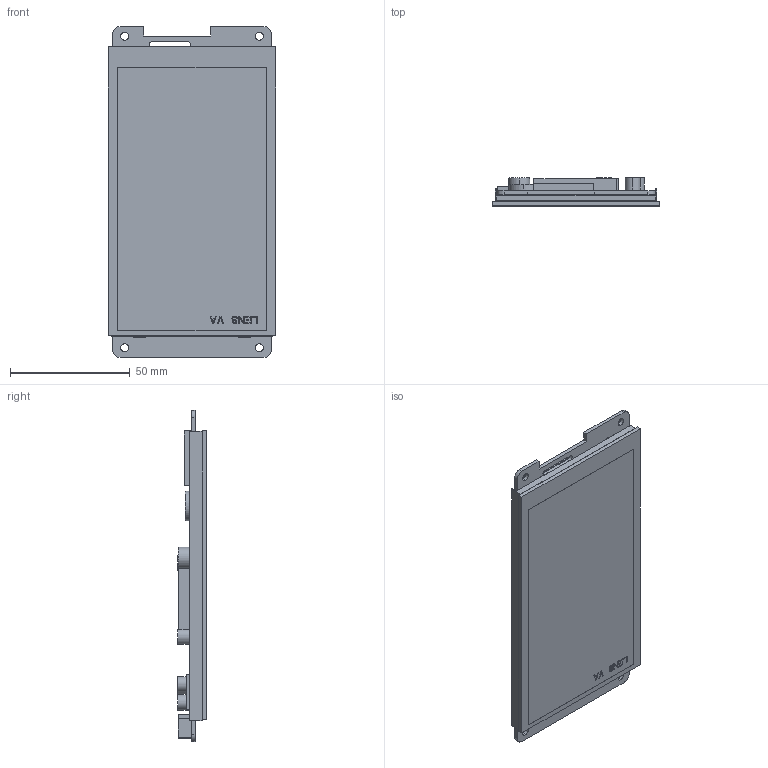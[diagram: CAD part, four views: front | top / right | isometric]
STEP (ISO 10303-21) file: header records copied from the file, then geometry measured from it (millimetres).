
FILE_DESCRIPTION((''),'2;1');
FILE_NAME('DMG85480K050-03WTC_ASM','2022-02-21T',('Administrator'),(''),'PRO/ENGINEER BY PARAMETRIC TECHNOLOGY CORPORATION, 2014320','PRO/ENGINEER BY PARAMETRIC TECHNOLOGY CORPORATION, 2014320','');
FILE_SCHEMA(('CONFIG_CONTROL_DESIGN','SHAPE_APPEARANCE_LAYERS_GROUPS'));
Length unit declared in the file: millimetre
Products named in the file (5): TK050005; LI85480T050HD4504; PCB; TPC050C0024G01V1; DMG85480K050-03WTC_ASM
Assembly tree (4 placements, depth 2):
  DMG85480K050-03WTC_ASM
    TK050005
    LI85480T050HD4504
    PCB
    TPC050C0024G01V1
Bounding box: 69.9 x 11.97 x 138.3 mm (x, y, z)
Volume: 55657 mm3; surface area: 61393.5 mm2
Topology: 4 solids, 4 shells, 266 faces, 700 edges, 466 vertices
Faces by surface type: plane 236, cylinder 30
Entity records: 8326 total; most frequent: CARTESIAN_POINT 1441, ORIENTED_EDGE 1400, DIRECTION 1312, EDGE_CURVE 700, VECTOR 638, LINE 638, VERTEX_POINT 466, AXIS2_PLACEMENT_3D 337
